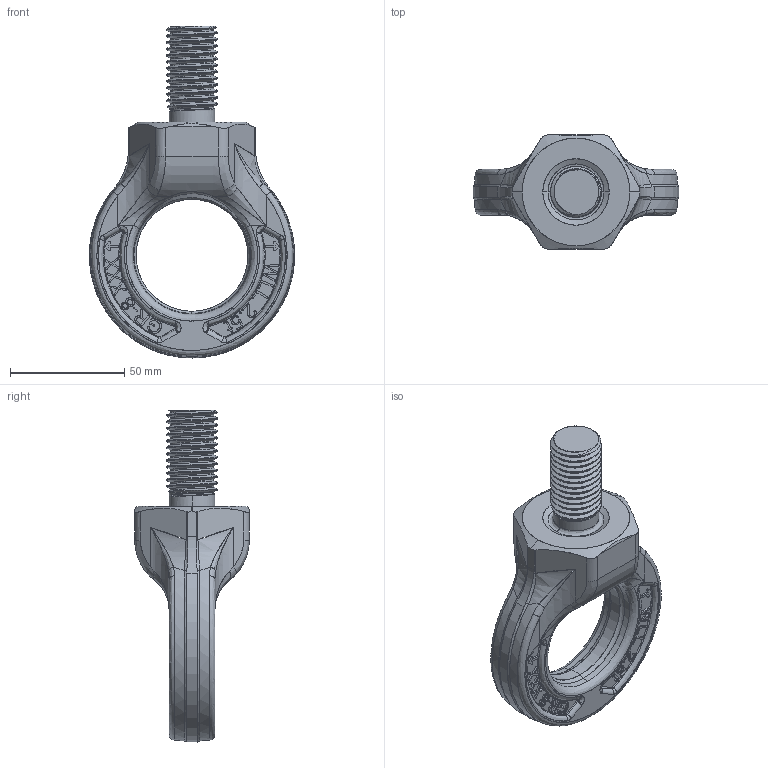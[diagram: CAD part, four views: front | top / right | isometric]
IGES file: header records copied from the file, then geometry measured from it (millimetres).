
Start section: SolidWorks IGES file using analytic representation for surfaces
Global section: file name: Y:\NEW DRAWING DATABASE\TOWNLEY\EB EN\GRADE 8\Marketing\CAD Files for Website\HTEBU875.IGS; native system: SolidWorks 2024; preprocessor: SolidWorks 2024; author: Tool Room; date: 251201.095502; units: millimetre
Bounding box: 89.7 x 50 x 145 mm (x, y, z)
Surface area: 26359 mm2 (no closed solid volume)
Topology: 0 solids, 0 shells, 782 faces, 11715 edges, 11707 vertices
Faces by surface type: bspline 689, revolution 93
